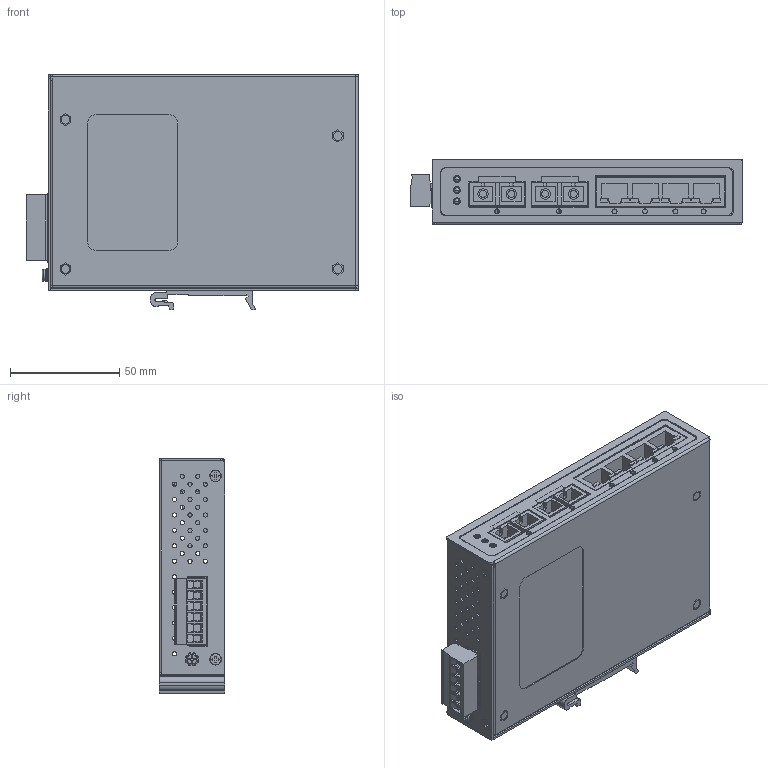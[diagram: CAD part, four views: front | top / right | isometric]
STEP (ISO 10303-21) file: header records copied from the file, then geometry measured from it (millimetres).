
FILE_DESCRIPTION((''),'2;1');
FILE_NAME('ET2-0602-M_ASM','2020-02-17T',('ASUS'),(''),'PRO/ENGINEER BY PARAMETRIC TECHNOLOGY CORPORATION, 2009440','PRO/ENGINEER BY PARAMETRIC TECHNOLOGY CORPORATION, 2009440','');
FILE_SCHEMA(('CONFIG_CONTROL_DESIGN'));
Length unit declared in the file: millimetre
Products named in the file (19): PRT0001; PRT0002; PRT0003; ASM0003_ASM; PRT0004; PRT0005; PRT0006; ASM0006_ASM; ASM0005_ASM; PRT0007; ASM0004_ASM; PRT0008; PRT0009; PRT0010; PRT0011; PRT0012; PRT0013; ASM0002_ASM; ET2-0602-M_ASM
Assembly tree (31 placements, depth 6):
  ET2-0602-M_ASM
    ASM0002_ASM
      ASM0003_ASM
        PRT0001
        PRT0002  x4
        PRT0003
      ASM0004_ASM
        PRT0004
        PRT0005  x2
        ASM0005_ASM
          ASM0006_ASM
            PRT0006
        PRT0007
      PRT0008
      PRT0009  x10
      PRT0010
      PRT0011
      PRT0012
      PRT0013
Bounding box: 152.14 x 30 x 107.94 mm (x, y, z)
Volume: 82399.9 mm3; surface area: 123081.7 mm2
Topology: 26 solids, 26 shells, 2484 faces, 6410 edges, 4098 vertices
Faces by surface type: plane 1287, cylinder 955, torus 104, cone 98, sphere 36, bspline 4
Entity records: 67067 total; most frequent: CARTESIAN_POINT 14685, DIRECTION 11271, ORIENTED_EDGE 10520, EDGE_CURVE 5260, AXIS2_PLACEMENT_3D 4021, VERTEX_POINT 3355, VECTOR 3229, LINE 3229
